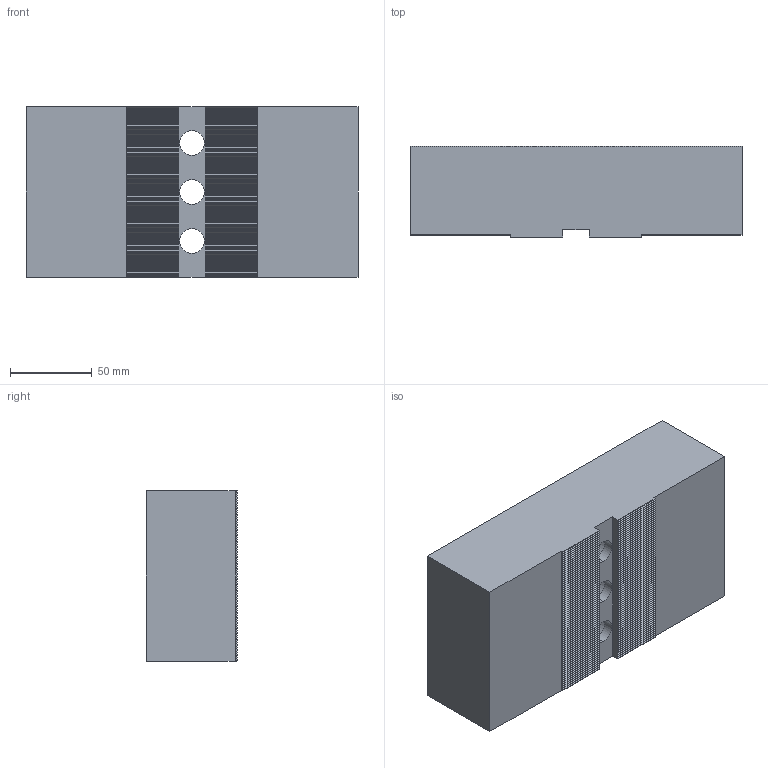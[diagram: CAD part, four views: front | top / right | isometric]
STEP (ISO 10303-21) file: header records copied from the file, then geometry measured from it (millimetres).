
FILE_DESCRIPTION (( 'STEP AP203' ), '1' );
FILE_NAME ('05-0174.STEP', '2021-09-14T23:16:05', ( '' ), ( '' ), 'SwSTEP 2.0', 'SolidWorks 2020', '' );
FILE_SCHEMA (( 'CONFIG_CONTROL_DESIGN' ));
Length unit declared in the file: inch
Products named in the file (1): 05-0174
Bounding box: 203.2 x 55.8 x 104.45 mm (x, y, z)
Volume: 1096762.7 mm3; surface area: 91081.1 mm2
Topology: 1 solids, 1 shells, 587 faces, 1746 edges, 1164 vertices
Faces by surface type: plane 435, cylinder 152
Entity records: 19655 total; most frequent: CARTESIAN_POINT 3498, ORIENTED_EDGE 3492, DIRECTION 3226, EDGE_CURVE 1746, VECTOR 1442, LINE 1442, VERTEX_POINT 1164, AXIS2_PLACEMENT_3D 892
